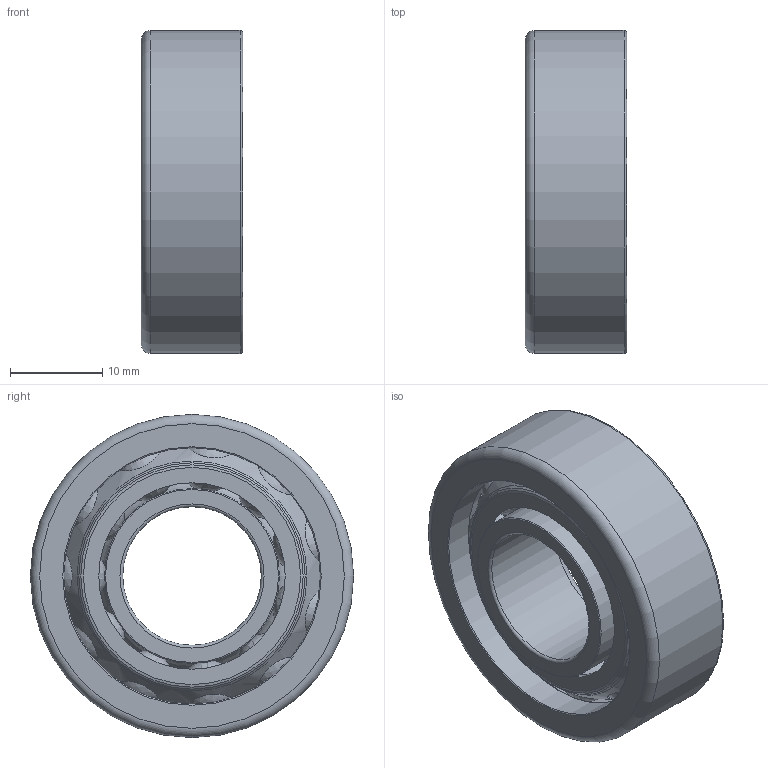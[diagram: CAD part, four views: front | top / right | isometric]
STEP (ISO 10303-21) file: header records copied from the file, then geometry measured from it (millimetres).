
FILE_DESCRIPTION(/* description */ (''),/* implementation_level */ '2;1');
FILE_NAME(/* name */ 'C:\MOJE SUBORY\03_Doplnenie 3D modelov\7202AA\7202AA.stp',/* time_stamp */ '2020-11-05T11:37:08+01:00',/* author */ ('OUPIONTEKM'),/* organization */ (''),/* preprocessor_version */ 'ST-DEVELOPER v18.1',/* originating_system */ 'Autodesk Inventor 2021',/* authorisation */ '');
FILE_SCHEMA (('AUTOMOTIVE_DESIGN { 1 0 10303 214 3 1 1 }'));
Length unit declared in the file: millimetre
Products named in the file (3): 7202AA; 7202AA_1; KUG_5_953
Assembly tree (12 placements, depth 2):
  7202AA
    7202AA_1
    KUG_5_953  x11
Bounding box: 11 x 35 x 35 mm (x, y, z)
Volume: 6047.5 mm3; surface area: 6899.5 mm2
Topology: 14 solids, 14 shells, 66 faces, 191 edges, 129 vertices
Faces by surface type: cylinder 17, torus 14, bspline 13, sphere 11, plane 6, cone 5
Full cylindrical faces by diameter (mm): 5.4 x11, 15 x1, 18.93 x1, 20.2 x1, 22.7 x1, 27.8 x1, 35 x1
Entity records: 3515 total; most frequent: CARTESIAN_POINT 1928, ORIENTED_EDGE 318, DIRECTION 275, EDGE_CURVE 159, AXIS2_PLACEMENT_3D 121, VERTEX_POINT 109, EDGE_LOOP 82, CIRCLE 63
